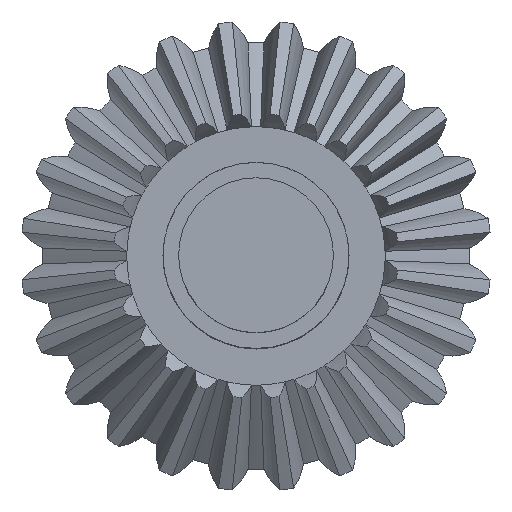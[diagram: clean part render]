
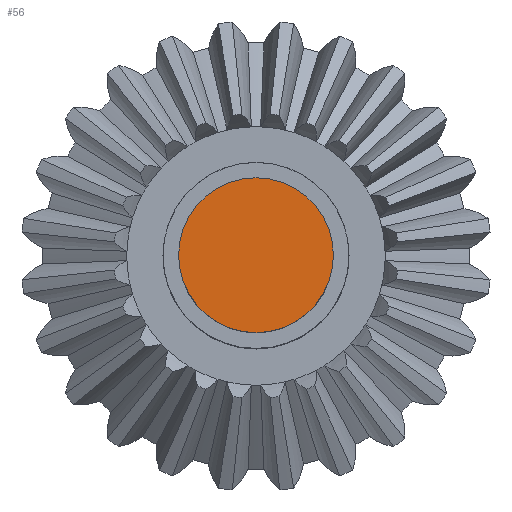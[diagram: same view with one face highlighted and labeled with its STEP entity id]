
A CAD part, top view. The second image highlights one B-rep face of the part: STEP entity #56.
In plain terms, the highlighted planar face has unit normal (0, 0, 1).
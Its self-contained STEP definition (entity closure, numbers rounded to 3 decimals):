
#56=ADVANCED_FACE('',(#2278),#2280,.T.);
#2278=FACE_BOUND('',#2279,.T.);
#2279=EDGE_LOOP('',(#5495));
#2280=PLANE('',#2281);
#2281=AXIS2_PLACEMENT_3D('',#2282,#2283,#2284);
#2282=CARTESIAN_POINT('',(-1.604,-36.196,37.5));
#2283=DIRECTION('',(0.,0.,1.));
#2284=DIRECTION('',(1.,0.,0.));
#5495=ORIENTED_EDGE('',*,*,#6867,.T.);
#6867=EDGE_CURVE('',#7556,#7556,#7557,.T.);
#7556=VERTEX_POINT('',#8656);
#7557=CIRCLE('',#8657,4.95);
#8656=CARTESIAN_POINT('',(3.346,-36.196,37.5));
#8657=AXIS2_PLACEMENT_3D('',#8658,#8659,#8660);
#8658=CARTESIAN_POINT('',(-1.604,-36.196,37.5));
#8659=DIRECTION('',(0.,0.,1.));
#8660=DIRECTION('',(1.,0.,0.));
